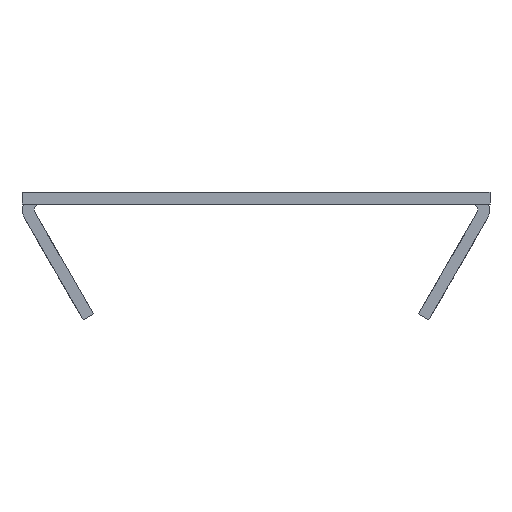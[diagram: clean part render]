
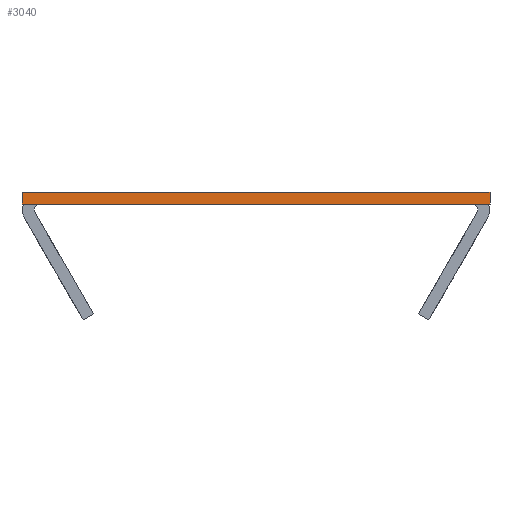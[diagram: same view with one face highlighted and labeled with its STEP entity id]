
A CAD part, left-side view. The second image highlights one B-rep face of the part: STEP entity #3040.
In plain terms, the highlighted planar face has unit normal (-1, 0, 0).
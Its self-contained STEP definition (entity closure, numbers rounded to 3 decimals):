
#6 = VERTEX_POINT ( 'NONE', #2237 ) ;
#71 = ORIENTED_EDGE ( 'NONE', *, *, #4895, .T. ) ;
#94 = DIRECTION ( 'NONE',  ( 0., 0., -1. ) ) ;
#545 = CARTESIAN_POINT ( 'NONE',  ( -108.167, 62.412, 0. ) ) ;
#647 = CARTESIAN_POINT ( 'NONE',  ( -108.167, 86.912, 1.25 ) ) ;
#746 = LINE ( 'NONE', #3607, #4095 ) ;
#870 = VERTEX_POINT ( 'NONE', #647 ) ;
#1052 = CARTESIAN_POINT ( 'NONE',  ( -108.167, 37.312, 0. ) ) ;
#1057 = DIRECTION ( 'NONE',  ( 0., 1., 0. ) ) ;
#1280 = EDGE_CURVE ( 'NONE', #870, #6, #746, .T. ) ;
#1489 = AXIS2_PLACEMENT_3D ( 'NONE', #1052, #1504, #4535 ) ;
#1504 = DIRECTION ( 'NONE',  ( -1., 0., 0. ) ) ;
#1631 = VECTOR ( 'NONE', #1057, 1000. ) ;
#1682 = EDGE_LOOP ( 'NONE', ( #2735, #4869, #4913, #71 ) ) ;
#1847 = VECTOR ( 'NONE', #2530, 1000. ) ;
#1869 = VERTEX_POINT ( 'NONE', #4022 ) ;
#2105 = CARTESIAN_POINT ( 'NONE',  ( -108.167, 37.912, 1.25 ) ) ;
#2237 = CARTESIAN_POINT ( 'NONE',  ( -108.167, 86.912, 0. ) ) ;
#2479 = VERTEX_POINT ( 'NONE', #2849 ) ;
#2530 = DIRECTION ( 'NONE',  ( 0., 0., 1. ) ) ;
#2591 = VECTOR ( 'NONE', #3623, 1000. ) ;
#2646 = LINE ( 'NONE', #4992, #1631 ) ;
#2735 = ORIENTED_EDGE ( 'NONE', *, *, #1280, .T. ) ;
#2849 = CARTESIAN_POINT ( 'NONE',  ( -108.167, 37.912, 1.25 ) ) ;
#2866 = LINE ( 'NONE', #2105, #1847 ) ;
#2934 = EDGE_CURVE ( 'NONE', #6, #1869, #4770, .T. ) ;
#3040 = ADVANCED_FACE ( 'NONE', ( #5651 ), #4102, .T. ) ;
#3607 = CARTESIAN_POINT ( 'NONE',  ( -108.167, 86.912, 0. ) ) ;
#3623 = DIRECTION ( 'NONE',  ( 0., -1., 0. ) ) ;
#3994 = EDGE_CURVE ( 'NONE', #1869, #2479, #2866, .T. ) ;
#4022 = CARTESIAN_POINT ( 'NONE',  ( -108.167, 37.912, 0. ) ) ;
#4095 = VECTOR ( 'NONE', #94, 1000. ) ;
#4102 = PLANE ( 'NONE',  #1489 ) ;
#4535 = DIRECTION ( 'NONE',  ( 0., -1., 0. ) ) ;
#4770 = LINE ( 'NONE', #545, #2591 ) ;
#4869 = ORIENTED_EDGE ( 'NONE', *, *, #2934, .T. ) ;
#4895 = EDGE_CURVE ( 'NONE', #2479, #870, #2646, .T. ) ;
#4913 = ORIENTED_EDGE ( 'NONE', *, *, #3994, .T. ) ;
#4992 = CARTESIAN_POINT ( 'NONE',  ( -108.167, 37.312, 1.25 ) ) ;
#5651 = FACE_OUTER_BOUND ( 'NONE', #1682, .T. ) ;
